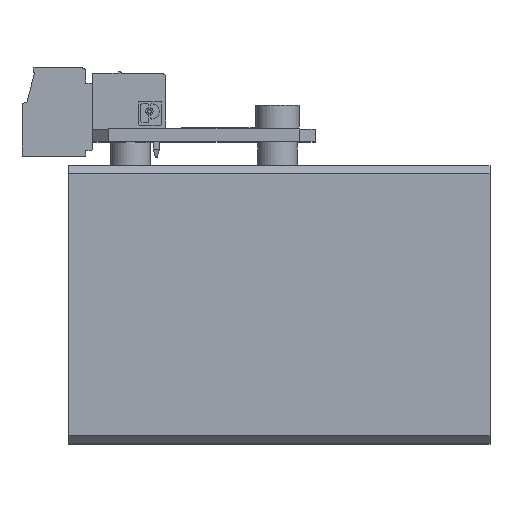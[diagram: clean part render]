
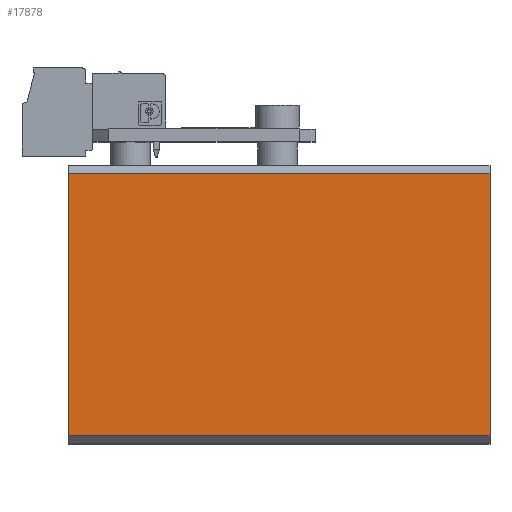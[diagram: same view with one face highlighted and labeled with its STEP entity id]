
A CAD part, top view. The second image highlights one B-rep face of the part: STEP entity #17878.
In plain terms, the highlighted planar face has unit normal (0, 0, 1).
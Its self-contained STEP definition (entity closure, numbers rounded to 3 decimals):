
#370 = ORIENTED_EDGE ( 'NONE', *, *, #18009, .T. ) ;
#2012 = AXIS2_PLACEMENT_3D ( 'NONE', #20594, #7827, #22702 ) ;
#2887 = EDGE_CURVE ( 'NONE', #4428, #25363, #8830, .T. ) ;
#3129 = VERTEX_POINT ( 'NONE', #11007 ) ;
#3847 = VECTOR ( 'NONE', #5626, 1000. ) ;
#4428 = VERTEX_POINT ( 'NONE', #24996 ) ;
#4777 = FACE_OUTER_BOUND ( 'NONE', #7615, .T. ) ;
#5574 = CARTESIAN_POINT ( 'NONE',  ( 53., 16.5, 17.5 ) ) ;
#5588 = ORIENTED_EDGE ( 'NONE', *, *, #2887, .T. ) ;
#5626 = DIRECTION ( 'NONE',  ( 0., -1., 0. ) ) ;
#6029 = LINE ( 'NONE', #26007, #22344 ) ;
#6145 = CARTESIAN_POINT ( 'NONE',  ( 53., -16.5, 17.5 ) ) ;
#7615 = EDGE_LOOP ( 'NONE', ( #15740, #5588, #17196, #370 ) ) ;
#7827 = DIRECTION ( 'NONE',  ( 0., 0., -1. ) ) ;
#8171 = VECTOR ( 'NONE', #10167, 1000. ) ;
#8830 = LINE ( 'NONE', #25089, #8171 ) ;
#10167 = DIRECTION ( 'NONE',  ( 1., 0., 0. ) ) ;
#11007 = CARTESIAN_POINT ( 'NONE',  ( 0., 16.5, 17.5 ) ) ;
#11059 = LINE ( 'NONE', #23356, #21722 ) ;
#15740 = ORIENTED_EDGE ( 'NONE', *, *, #21539, .T. ) ;
#16232 = CARTESIAN_POINT ( 'NONE',  ( 0., -17.5, 17.5 ) ) ;
#17196 = ORIENTED_EDGE ( 'NONE', *, *, #25732, .F. ) ;
#17878 = ADVANCED_FACE ( 'NONE', ( #4777 ), #18349, .F. ) ;
#18009 = EDGE_CURVE ( 'NONE', #18324, #3129, #11059, .T. ) ;
#18324 = VERTEX_POINT ( 'NONE', #5574 ) ;
#18349 = PLANE ( 'NONE',  #2012 ) ;
#20594 = CARTESIAN_POINT ( 'NONE',  ( 53., -17.5, 17.5 ) ) ;
#21539 = EDGE_CURVE ( 'NONE', #3129, #4428, #25816, .T. ) ;
#21722 = VECTOR ( 'NONE', #25492, 1000. ) ;
#22344 = VECTOR ( 'NONE', #23864, 1000. ) ;
#22702 = DIRECTION ( 'NONE',  ( -1., 0., 0. ) ) ;
#23356 = CARTESIAN_POINT ( 'NONE',  ( 53., 16.5, 17.5 ) ) ;
#23864 = DIRECTION ( 'NONE',  ( 0., -1., 0. ) ) ;
#24996 = CARTESIAN_POINT ( 'NONE',  ( 0., -16.5, 17.5 ) ) ;
#25089 = CARTESIAN_POINT ( 'NONE',  ( 53., -16.5, 17.5 ) ) ;
#25363 = VERTEX_POINT ( 'NONE', #6145 ) ;
#25492 = DIRECTION ( 'NONE',  ( -1., 0., 0. ) ) ;
#25732 = EDGE_CURVE ( 'NONE', #18324, #25363, #6029, .T. ) ;
#25816 = LINE ( 'NONE', #16232, #3847 ) ;
#26007 = CARTESIAN_POINT ( 'NONE',  ( 53., -17.5, 17.5 ) ) ;
